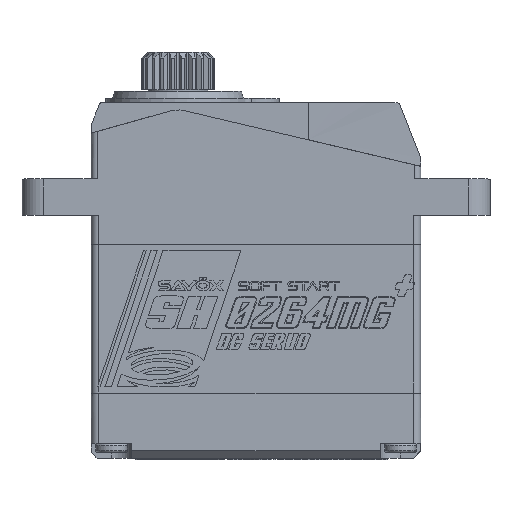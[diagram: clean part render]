
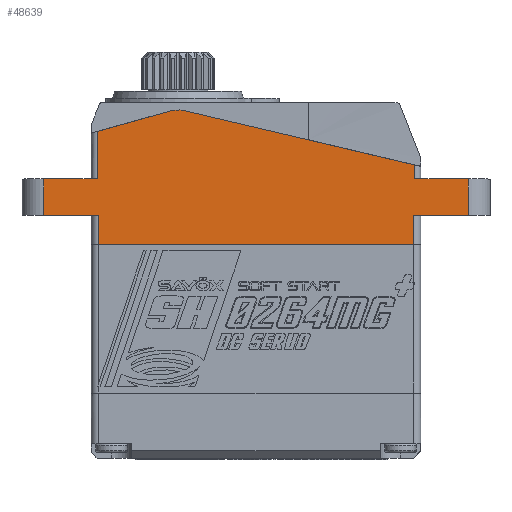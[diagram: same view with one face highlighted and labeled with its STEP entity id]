
A CAD part, top view. The second image highlights one B-rep face of the part: STEP entity #48639.
In plain terms, the highlighted planar face has unit normal (0, 0, 1).
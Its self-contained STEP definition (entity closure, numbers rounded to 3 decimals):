
#81 = VERTEX_POINT ( 'NONE', #10216 ) ;
#1132 = EDGE_CURVE ( 'NONE', #52638, #31462, #50939, .T. ) ;
#1500 = CARTESIAN_POINT ( 'NONE',  ( -5.6, 5.792, 6. ) ) ;
#1866 = EDGE_CURVE ( 'NONE', #51374, #22405, #13689, .T. ) ;
#2362 = LINE ( 'NONE', #11055, #28599 ) ;
#3221 = VERTEX_POINT ( 'NONE', #3994 ) ;
#3994 = CARTESIAN_POINT ( 'NONE',  ( -5.5, -2.02, 6. ) ) ;
#5238 = ORIENTED_EDGE ( 'NONE', *, *, #31192, .T. ) ;
#5312 = EDGE_CURVE ( 'NONE', #9477, #20240, #2362, .T. ) ;
#8230 = EDGE_LOOP ( 'NONE', ( #51298, #5238, #48890, #52293, #16244, #8323, #42729, #39215, #26954, #9742, #45439, #33486, #41077, #51512 ) ) ;
#8323 = ORIENTED_EDGE ( 'NONE', *, *, #1866, .F. ) ;
#8528 = VERTEX_POINT ( 'NONE', #16423 ) ;
#8642 = DIRECTION ( 'NONE',  ( 0., -1., 0. ) ) ;
#8719 = DIRECTION ( 'NONE',  ( 1., 0., 0. ) ) ;
#9477 = VERTEX_POINT ( 'NONE', #52076 ) ;
#9742 = ORIENTED_EDGE ( 'NONE', *, *, #15763, .F. ) ;
#10133 = LINE ( 'NONE', #22469, #44432 ) ;
#10216 = CARTESIAN_POINT ( 'NONE',  ( 16.4, 3.474, 6. ) ) ;
#10472 = CARTESIAN_POINT ( 'NONE',  ( -5.6, 5.792, 6. ) ) ;
#11055 = CARTESIAN_POINT ( 'NONE',  ( 16.8, 0., 6. ) ) ;
#11634 = CARTESIAN_POINT ( 'NONE',  ( 16.3, -2.02, 6. ) ) ;
#12179 = DIRECTION ( 'NONE',  ( 0., -1., 0. ) ) ;
#12537 = CARTESIAN_POINT ( 'NONE',  ( -5.5, 0., 6. ) ) ;
#12596 = DIRECTION ( 'NONE',  ( 0., 1., 0. ) ) ;
#13689 = LINE ( 'NONE', #30716, #22076 ) ;
#14338 = DIRECTION ( 'NONE',  ( 0., 1., 0. ) ) ;
#14414 = VECTOR ( 'NONE', #45901, 1000. ) ;
#14607 = VECTOR ( 'NONE', #42209, 1000. ) ;
#15024 = DIRECTION ( 'NONE',  ( 1., 0., 0. ) ) ;
#15239 = DIRECTION ( 'NONE',  ( 0.963, 0.269, 0. ) ) ;
#15763 = EDGE_CURVE ( 'NONE', #36509, #44806, #53200, .T. ) ;
#16132 = CARTESIAN_POINT ( 'NONE',  ( 16.3, -16.82, 6. ) ) ;
#16244 = ORIENTED_EDGE ( 'NONE', *, *, #26504, .F. ) ;
#16423 = CARTESIAN_POINT ( 'NONE',  ( 0.458, 7.227, 6. ) ) ;
#16488 = EDGE_CURVE ( 'NONE', #44806, #8528, #33488, .T. ) ;
#17415 = CARTESIAN_POINT ( 'NONE',  ( 16.3, -16.82, 6. ) ) ;
#18415 = AXIS2_PLACEMENT_3D ( 'NONE', #54095, #37604, #49894 ) ;
#20240 = VERTEX_POINT ( 'NONE', #20572 ) ;
#20572 = CARTESIAN_POINT ( 'NONE',  ( 16.3, 0., 6. ) ) ;
#21005 = CARTESIAN_POINT ( 'NONE',  ( -5.6, -0.02, 6. ) ) ;
#21202 = VERTEX_POINT ( 'NONE', #12537 ) ;
#21224 = LINE ( 'NONE', #21504, #52976 ) ;
#21504 = CARTESIAN_POINT ( 'NONE',  ( 16.4, -0.02, 6. ) ) ;
#22076 = VECTOR ( 'NONE', #22631, 1000. ) ;
#22405 = VERTEX_POINT ( 'NONE', #38863 ) ;
#22469 = CARTESIAN_POINT ( 'NONE',  ( -9.3, -0.02, 6. ) ) ;
#22613 = LINE ( 'NONE', #30957, #44903 ) ;
#22631 = DIRECTION ( 'NONE',  ( 1., 0., 0. ) ) ;
#22782 = EDGE_CURVE ( 'NONE', #21202, #35021, #22613, .T. ) ;
#24522 = VECTOR ( 'NONE', #12596, 1000. ) ;
#24523 = LINE ( 'NONE', #16132, #29625 ) ;
#24645 = LINE ( 'NONE', #50532, #14607 ) ;
#25639 = CARTESIAN_POINT ( 'NONE',  ( 20.1, -0.02, 6. ) ) ;
#25763 = LINE ( 'NONE', #21005, #24522 ) ;
#25905 = DIRECTION ( 'NONE',  ( 0., -1., 0. ) ) ;
#26504 = EDGE_CURVE ( 'NONE', #22405, #9477, #33945, .T. ) ;
#26954 = ORIENTED_EDGE ( 'NONE', *, *, #16488, .F. ) ;
#27750 = CARTESIAN_POINT ( 'NONE',  ( 16.4, 2.5, 6. ) ) ;
#28080 = CARTESIAN_POINT ( 'NONE',  ( -5.6, 2.5, 6. ) ) ;
#28599 = VECTOR ( 'NONE', #52948, 1000. ) ;
#29625 = VECTOR ( 'NONE', #12179, 1000. ) ;
#30154 = CARTESIAN_POINT ( 'NONE',  ( -0.538, 7.206, 6. ) ) ;
#30303 = EDGE_CURVE ( 'NONE', #81, #51374, #21224, .T. ) ;
#30716 = CARTESIAN_POINT ( 'NONE',  ( 16.8, 2.5, 6. ) ) ;
#30957 = CARTESIAN_POINT ( 'NONE',  ( 16.8, 0., 6. ) ) ;
#31192 = EDGE_CURVE ( 'NONE', #3221, #50431, #49877, .T. ) ;
#31255 = VECTOR ( 'NONE', #15024, 1000. ) ;
#31462 = VERTEX_POINT ( 'NONE', #28080 ) ;
#31622 = EDGE_CURVE ( 'NONE', #35021, #52638, #10133, .T. ) ;
#33486 = ORIENTED_EDGE ( 'NONE', *, *, #1132, .F. ) ;
#33488 = CIRCLE ( 'NONE', #18415, 2. ) ;
#33945 = LINE ( 'NONE', #25639, #41377 ) ;
#35021 = VERTEX_POINT ( 'NONE', #47832 ) ;
#36087 = VECTOR ( 'NONE', #15239, 1000. ) ;
#36218 = CARTESIAN_POINT ( 'NONE',  ( 0.458, 7.227, 6. ) ) ;
#36509 = VERTEX_POINT ( 'NONE', #10472 ) ;
#37604 = DIRECTION ( 'NONE',  ( 0., 0., -1. ) ) ;
#38273 = EDGE_CURVE ( 'NONE', #20240, #50431, #24523, .T. ) ;
#38323 = PLANE ( 'NONE',  #52391 ) ;
#38863 = CARTESIAN_POINT ( 'NONE',  ( 20.1, 2.5, 6. ) ) ;
#39215 = ORIENTED_EDGE ( 'NONE', *, *, #42471, .F. ) ;
#39912 = DIRECTION ( 'NONE',  ( -1., 0., 0. ) ) ;
#39993 = CARTESIAN_POINT ( 'NONE',  ( -9.3, 2.5, 6. ) ) ;
#41077 = ORIENTED_EDGE ( 'NONE', *, *, #31622, .F. ) ;
#41377 = VECTOR ( 'NONE', #25905, 1000. ) ;
#41911 = EDGE_CURVE ( 'NONE', #31462, #36509, #25763, .T. ) ;
#42209 = DIRECTION ( 'NONE',  ( 0., 1., 0. ) ) ;
#42259 = DIRECTION ( 'NONE',  ( 0., 0., -1. ) ) ;
#42471 = EDGE_CURVE ( 'NONE', #8528, #81, #52408, .T. ) ;
#42729 = ORIENTED_EDGE ( 'NONE', *, *, #30303, .F. ) ;
#44432 = VECTOR ( 'NONE', #14338, 1000. ) ;
#44711 = EDGE_CURVE ( 'NONE', #3221, #21202, #24645, .T. ) ;
#44806 = VERTEX_POINT ( 'NONE', #30154 ) ;
#44903 = VECTOR ( 'NONE', #39912, 1000. ) ;
#45439 = ORIENTED_EDGE ( 'NONE', *, *, #41911, .F. ) ;
#45901 = DIRECTION ( 'NONE',  ( 0.973, -0.229, 0. ) ) ;
#46771 = DIRECTION ( 'NONE',  ( 1., 0., 0. ) ) ;
#47466 = VECTOR ( 'NONE', #46771, 1000. ) ;
#47832 = CARTESIAN_POINT ( 'NONE',  ( -9.3, 0., 6. ) ) ;
#48639 = ADVANCED_FACE ( 'NONE', ( #55084 ), #38323, .F. ) ;
#48890 = ORIENTED_EDGE ( 'NONE', *, *, #38273, .F. ) ;
#49877 = LINE ( 'NONE', #11634, #31255 ) ;
#49894 = DIRECTION ( 'NONE',  ( -1., 0., 0. ) ) ;
#50431 = VERTEX_POINT ( 'NONE', #52604 ) ;
#50532 = CARTESIAN_POINT ( 'NONE',  ( -5.5, -16.82, 6. ) ) ;
#50939 = LINE ( 'NONE', #54611, #47466 ) ;
#51298 = ORIENTED_EDGE ( 'NONE', *, *, #44711, .F. ) ;
#51374 = VERTEX_POINT ( 'NONE', #27750 ) ;
#51512 = ORIENTED_EDGE ( 'NONE', *, *, #22782, .F. ) ;
#52076 = CARTESIAN_POINT ( 'NONE',  ( 20.1, 0., 6. ) ) ;
#52293 = ORIENTED_EDGE ( 'NONE', *, *, #5312, .F. ) ;
#52391 = AXIS2_PLACEMENT_3D ( 'NONE', #17415, #42259, #8719 ) ;
#52408 = LINE ( 'NONE', #36218, #14414 ) ;
#52604 = CARTESIAN_POINT ( 'NONE',  ( 16.3, -2.02, 6. ) ) ;
#52638 = VERTEX_POINT ( 'NONE', #39993 ) ;
#52948 = DIRECTION ( 'NONE',  ( -1., 0., 0. ) ) ;
#52976 = VECTOR ( 'NONE', #8642, 1000. ) ;
#53200 = LINE ( 'NONE', #1500, #36087 ) ;
#54095 = CARTESIAN_POINT ( 'NONE',  ( 0., 5.28, 6. ) ) ;
#54611 = CARTESIAN_POINT ( 'NONE',  ( 16.8, 2.5, 6. ) ) ;
#55084 = FACE_OUTER_BOUND ( 'NONE', #8230, .T. ) ;
